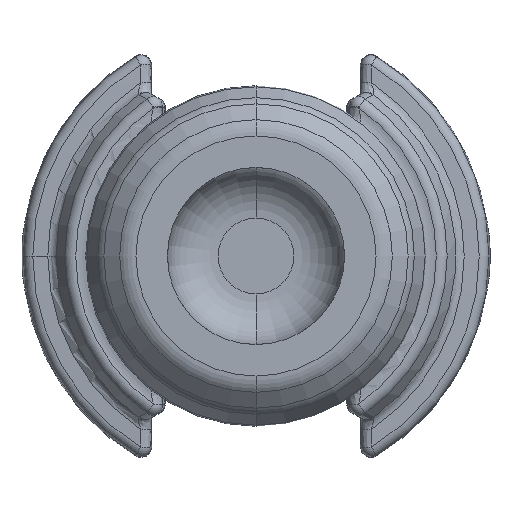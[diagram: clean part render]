
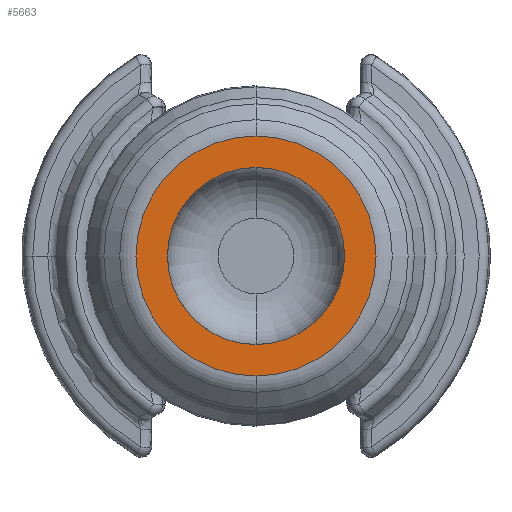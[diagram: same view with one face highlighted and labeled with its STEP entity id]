
A CAD part, front view. The second image highlights one B-rep face of the part: STEP entity #5663.
In plain terms, the highlighted planar face has unit normal (0, -1, 0).
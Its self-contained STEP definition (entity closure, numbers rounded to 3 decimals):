
#300 = FACE_BOUND ( 'NONE', #783, .T. ) ;
#550 = DIRECTION ( 'NONE',  ( 0., 0., 1. ) ) ;
#733 = AXIS2_PLACEMENT_3D ( 'NONE', #11941, #2485, #1743 ) ;
#736 = CARTESIAN_POINT ( 'NONE',  ( 0., -4.25, 2.372 ) ) ;
#781 = EDGE_CURVE ( 'NONE', #4554, #12003, #9174, .T. ) ;
#783 = EDGE_LOOP ( 'NONE', ( #5013, #3871 ) ) ;
#854 = CARTESIAN_POINT ( 'NONE',  ( 0., -4.25, 0. ) ) ;
#1128 = AXIS2_PLACEMENT_3D ( 'NONE', #7814, #1229, #550 ) ;
#1229 = DIRECTION ( 'NONE',  ( 0., -1., 0. ) ) ;
#1743 = DIRECTION ( 'NONE',  ( 0., 0., 1. ) ) ;
#1832 = DIRECTION ( 'NONE',  ( 0., -1., 0. ) ) ;
#2079 = DIRECTION ( 'NONE',  ( 0., 0., 1. ) ) ;
#2201 = CARTESIAN_POINT ( 'NONE',  ( 5., -4.25, -4.6 ) ) ;
#2485 = DIRECTION ( 'NONE',  ( 0., 1., 0. ) ) ;
#2727 = DIRECTION ( 'NONE',  ( 0., 0., 1. ) ) ;
#2892 = CIRCLE ( 'NONE', #733, 1.75 ) ;
#3871 = ORIENTED_EDGE ( 'NONE', *, *, #4983, .T. ) ;
#4554 = VERTEX_POINT ( 'NONE', #736 ) ;
#4596 = DIRECTION ( 'NONE',  ( 0., 0., 1. ) ) ;
#4983 = EDGE_CURVE ( 'NONE', #11985, #6811, #6801, .T. ) ;
#5013 = ORIENTED_EDGE ( 'NONE', *, *, #11970, .T. ) ;
#5297 = CARTESIAN_POINT ( 'NONE',  ( 0., -4.25, -1.75 ) ) ;
#5663 = ADVANCED_FACE ( 'NONE', ( #300, #6881 ), #10618, .F. ) ;
#6072 = CIRCLE ( 'NONE', #6257, 2.372 ) ;
#6257 = AXIS2_PLACEMENT_3D ( 'NONE', #854, #1832, #4596 ) ;
#6360 = AXIS2_PLACEMENT_3D ( 'NONE', #2201, #9703, #2079 ) ;
#6801 = CIRCLE ( 'NONE', #8375, 1.75 ) ;
#6811 = VERTEX_POINT ( 'NONE', #11199 ) ;
#6881 = FACE_OUTER_BOUND ( 'NONE', #8876, .T. ) ;
#7814 = CARTESIAN_POINT ( 'NONE',  ( 0., -4.25, 0. ) ) ;
#8375 = AXIS2_PLACEMENT_3D ( 'NONE', #11081, #10527, #2727 ) ;
#8806 = ORIENTED_EDGE ( 'NONE', *, *, #11344, .T. ) ;
#8876 = EDGE_LOOP ( 'NONE', ( #11648, #8806 ) ) ;
#9174 = CIRCLE ( 'NONE', #1128, 2.372 ) ;
#9703 = DIRECTION ( 'NONE',  ( 0., 1., 0. ) ) ;
#10102 = CARTESIAN_POINT ( 'NONE',  ( 0., -4.25, -2.372 ) ) ;
#10527 = DIRECTION ( 'NONE',  ( 0., 1., 0. ) ) ;
#10618 = PLANE ( 'NONE',  #6360 ) ;
#11081 = CARTESIAN_POINT ( 'NONE',  ( 0., -4.25, 0. ) ) ;
#11199 = CARTESIAN_POINT ( 'NONE',  ( 0., -4.25, 1.75 ) ) ;
#11344 = EDGE_CURVE ( 'NONE', #12003, #4554, #6072, .T. ) ;
#11648 = ORIENTED_EDGE ( 'NONE', *, *, #781, .T. ) ;
#11941 = CARTESIAN_POINT ( 'NONE',  ( 0., -4.25, 0. ) ) ;
#11970 = EDGE_CURVE ( 'NONE', #6811, #11985, #2892, .T. ) ;
#11985 = VERTEX_POINT ( 'NONE', #5297 ) ;
#12003 = VERTEX_POINT ( 'NONE', #10102 ) ;
